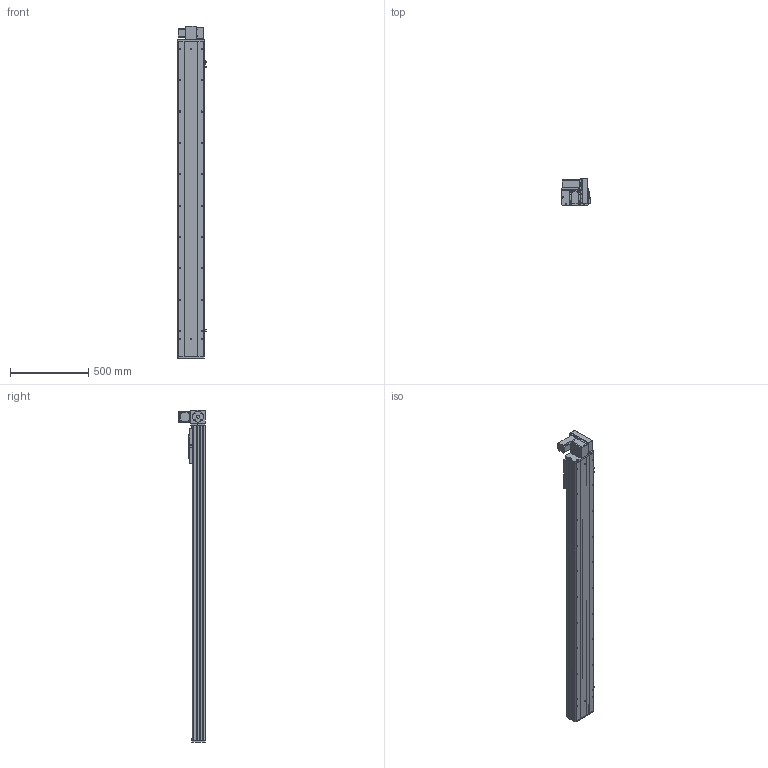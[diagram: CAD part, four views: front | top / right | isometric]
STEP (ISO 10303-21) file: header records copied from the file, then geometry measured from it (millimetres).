
FILE_DESCRIPTION (( 'STEP AP203' ), '1' );
FILE_NAME ('Y170CB-D105-S1700-UR-P400W.STEP', '2020-02-20T04:21:42', ( '微软用户' ), ( '微软中国' ), 'SwSTEP 2.0', 'SolidWorks 2017', '' );
FILE_SCHEMA (( 'CONFIG_CONTROL_DESIGN' ));
Length unit declared in the file: millimetre
Products named in the file (18): 70CB-詩湍--; san松下电机400不带刹车----; Y100-135俋离換覜ん--; 70CB-掛极-; Y170CB-陔俋离換覜結え---; --70CB --喘謫眊楊擘啣-; Y1埴倛裔; 70CB-耜裔啣-; 17B-耜蚾蟀諉啣----; 70C--詩湍揤踡え-; 00B-俋欶BM--163; 70CB--耜裔; 70B喘謫眊----; 70C-雄赽釱-奻-; B-源倛裔啣; Y170CB-D105-S1700-UR-P400W; 0C--雄赽釱俋欶-170; 0B-萇儂楊擘啣
Assembly tree (21 placements, depth 2):
  Y170CB-D105-S1700-UR-P400W
    B-源倛裔啣
    0B-萇儂楊擘啣
    san松下电机400不带刹车----
    70CB-掛极-
    --70CB --喘謫眊楊擘啣-
    70CB-耜裔啣-  x2
    70C--詩湍揤踡え-  x2
    70CB--耜裔
    70C-雄赽釱-奻-
    0C--雄赽釱俋欶-170
    70CB-詩湍--
    Y100-135俋离換覜ん--  x3
    Y170CB-陔俋离換覜結え---
    Y1埴倛裔
    17B-耜蚾蟀諉啣----
    00B-俋欶BM--163
    70B喘謫眊----
Bounding box: 183.5 x 174 x 2116 mm (x, y, z)
Volume: 9295050.8 mm3; surface area: 3347539.9 mm2
Topology: 21 solids, 21 shells, 1039 faces, 2789 edges, 1850 vertices
Faces by surface type: cylinder 553, plane 462, cone 24
Entity records: 33204 total; most frequent: CARTESIAN_POINT 6096, DIRECTION 5402, ORIENTED_EDGE 5060, EDGE_CURVE 2530, AXIS2_PLACEMENT_3D 1988, VERTEX_POINT 1680, VECTOR 1426, LINE 1426
